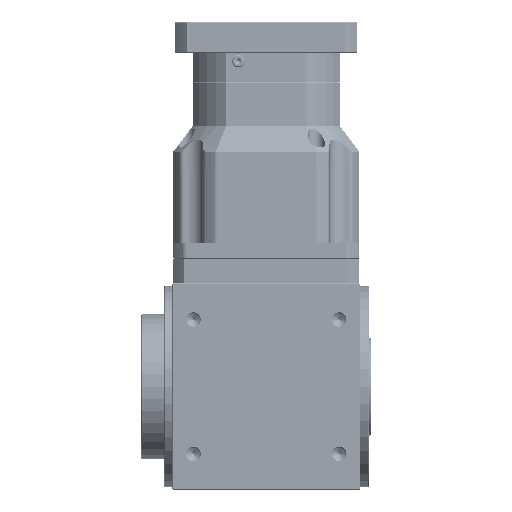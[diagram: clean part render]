
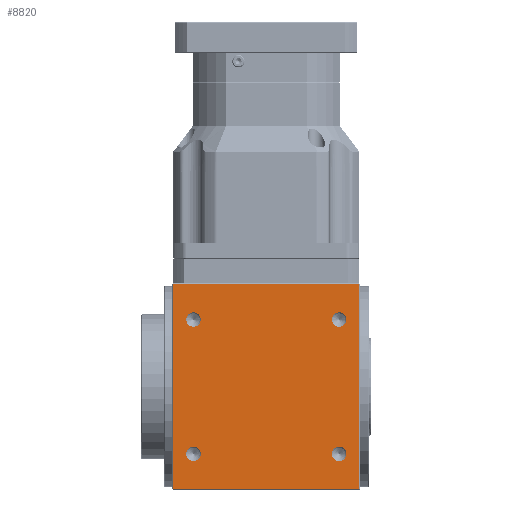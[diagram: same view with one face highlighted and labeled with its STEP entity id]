
A CAD part, front view. The second image highlights one B-rep face of the part: STEP entity #8820.
In plain terms, the highlighted planar face has unit normal (0, -1, 0) as drawn and (0, 0, -1) by its records, which use the part's own axes.
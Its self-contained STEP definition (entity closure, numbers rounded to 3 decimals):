
#449 = ORIENTED_EDGE ( 'NONE', *, *, #145930, .F. ) ;
#633 = EDGE_LOOP ( 'NONE', ( #129482, #45025 ) ) ;
#788 = CIRCLE ( 'NONE', #96652, 7. ) ;
#1227 = ORIENTED_EDGE ( 'NONE', *, *, #120564, .T. ) ;
#1298 = CARTESIAN_POINT ( 'NONE',  ( 91., -99., -100. ) ) ;
#5831 = DIRECTION ( 'NONE',  ( 0., 0., -1. ) ) ;
#7052 = DIRECTION ( 'NONE',  ( 0., -1., 0. ) ) ;
#8820 = ADVANCED_FACE ( 'NONE', ( #111980, #81419, #142329, #50953, #138730 ), #131395, .F. ) ;
#10767 = DIRECTION ( 'NONE',  ( 0., 1., 0. ) ) ;
#10984 = VERTEX_POINT ( 'NONE', #11340 ) ;
#11340 = CARTESIAN_POINT ( 'NONE',  ( -77.5, -65., -100. ) ) ;
#11454 = CARTESIAN_POINT ( 'NONE',  ( 63.5, 65., -100. ) ) ;
#17701 = DIRECTION ( 'NONE',  ( 0., 0., -1. ) ) ;
#17892 = EDGE_CURVE ( 'NONE', #107421, #56135, #126602, .T. ) ;
#18652 = AXIS2_PLACEMENT_3D ( 'NONE', #28227, #108521, #39792 ) ;
#18968 = CARTESIAN_POINT ( 'NONE',  ( 91., 99., -100. ) ) ;
#19226 = ORIENTED_EDGE ( 'NONE', *, *, #31431, .F. ) ;
#19596 = CARTESIAN_POINT ( 'NONE',  ( 90., 99., -100. ) ) ;
#19893 = CIRCLE ( 'NONE', #83148, 7. ) ;
#22408 = DIRECTION ( 'NONE',  ( 0., 1., 0. ) ) ;
#22409 = CARTESIAN_POINT ( 'NONE',  ( -70.5, 65., -100. ) ) ;
#23015 = CIRCLE ( 'NONE', #127202, 7. ) ;
#27076 = CARTESIAN_POINT ( 'NONE',  ( -90., -99., -100. ) ) ;
#27694 = CARTESIAN_POINT ( 'NONE',  ( 90., -99., -100. ) ) ;
#28227 = CARTESIAN_POINT ( 'NONE',  ( 70.5, 65., -100. ) ) ;
#28817 = DIRECTION ( 'NONE',  ( 0., 0., -1. ) ) ;
#31431 = EDGE_CURVE ( 'NONE', #55599, #42506, #788, .T. ) ;
#32496 = ORIENTED_EDGE ( 'NONE', *, *, #51628, .F. ) ;
#33661 = CARTESIAN_POINT ( 'NONE',  ( -77.5, 65., -100. ) ) ;
#33963 = DIRECTION ( 'NONE',  ( -1., 0., 0. ) ) ;
#34135 = AXIS2_PLACEMENT_3D ( 'NONE', #125669, #57047, #137137 ) ;
#34347 = EDGE_LOOP ( 'NONE', ( #130482, #61517 ) ) ;
#36065 = EDGE_LOOP ( 'NONE', ( #449, #147823 ) ) ;
#38575 = LINE ( 'NONE', #18968, #96011 ) ;
#39315 = ORIENTED_EDGE ( 'NONE', *, *, #51652, .F. ) ;
#39792 = DIRECTION ( 'NONE',  ( -1., 0., 0. ) ) ;
#41116 = EDGE_CURVE ( 'NONE', #131014, #10984, #19893, .T. ) ;
#42506 = VERTEX_POINT ( 'NONE', #124232 ) ;
#43799 = VERTEX_POINT ( 'NONE', #44548 ) ;
#44548 = CARTESIAN_POINT ( 'NONE',  ( 77.5, 65., -100. ) ) ;
#45025 = ORIENTED_EDGE ( 'NONE', *, *, #17892, .F. ) ;
#45134 = DIRECTION ( 'NONE',  ( 0., 0., -1. ) ) ;
#46099 = CIRCLE ( 'NONE', #18652, 7. ) ;
#46256 = CARTESIAN_POINT ( 'NONE',  ( -90., 99., -100. ) ) ;
#46859 = CIRCLE ( 'NONE', #47676, 7. ) ;
#47676 = AXIS2_PLACEMENT_3D ( 'NONE', #22409, #102663, #33963 ) ;
#49413 = CIRCLE ( 'NONE', #119043, 7. ) ;
#49776 = LINE ( 'NONE', #137113, #137563 ) ;
#50362 = CARTESIAN_POINT ( 'NONE',  ( -63.5, -65., -100. ) ) ;
#50533 = DIRECTION ( 'NONE',  ( 0., 1., 0. ) ) ;
#50953 = FACE_BOUND ( 'NONE', #633, .T. ) ;
#51441 = CIRCLE ( 'NONE', #34135, 7. ) ;
#51628 = EDGE_CURVE ( 'NONE', #52522, #80252, #85914, .T. ) ;
#51652 = EDGE_CURVE ( 'NONE', #80252, #134047, #128865, .T. ) ;
#52115 = EDGE_CURVE ( 'NONE', #115931, #43799, #23015, .T. ) ;
#52522 = VERTEX_POINT ( 'NONE', #27076 ) ;
#55599 = VERTEX_POINT ( 'NONE', #135050 ) ;
#56135 = VERTEX_POINT ( 'NONE', #33661 ) ;
#57047 = DIRECTION ( 'NONE',  ( 0., 0., -1. ) ) ;
#58779 = EDGE_CURVE ( 'NONE', #42506, #55599, #49413, .T. ) ;
#58936 = AXIS2_PLACEMENT_3D ( 'NONE', #113884, #45134, #125340 ) ;
#61517 = ORIENTED_EDGE ( 'NONE', *, *, #76712, .F. ) ;
#67952 = EDGE_CURVE ( 'NONE', #56135, #107421, #46859, .T. ) ;
#72295 = CARTESIAN_POINT ( 'NONE',  ( -63.5, 65., -100. ) ) ;
#74566 = CARTESIAN_POINT ( 'NONE',  ( -70.5, -65., -100. ) ) ;
#75771 = DIRECTION ( 'NONE',  ( 0., 0., 1. ) ) ;
#76712 = EDGE_CURVE ( 'NONE', #43799, #115931, #46099, .T. ) ;
#79470 = DIRECTION ( 'NONE',  ( 0., 0., -1. ) ) ;
#80252 = VERTEX_POINT ( 'NONE', #27694 ) ;
#81419 = FACE_BOUND ( 'NONE', #112863, .T. ) ;
#82580 = CARTESIAN_POINT ( 'NONE',  ( 90., 0., -100. ) ) ;
#83148 = AXIS2_PLACEMENT_3D ( 'NONE', #74566, #5831, #86146 ) ;
#84070 = ORIENTED_EDGE ( 'NONE', *, *, #132572, .T. ) ;
#85914 = LINE ( 'NONE', #1298, #112819 ) ;
#86146 = DIRECTION ( 'NONE',  ( -1., 0., 0. ) ) ;
#86457 = CARTESIAN_POINT ( 'NONE',  ( 70.5, 65., -100. ) ) ;
#93820 = AXIS2_PLACEMENT_3D ( 'NONE', #144359, #75771, #7052 ) ;
#96011 = VECTOR ( 'NONE', #133231, 1000. ) ;
#96652 = AXIS2_PLACEMENT_3D ( 'NONE', #97571, #28817, #109107 ) ;
#97571 = CARTESIAN_POINT ( 'NONE',  ( 70.5, -65., -100. ) ) ;
#98016 = DIRECTION ( 'NONE',  ( -1., 0., 0. ) ) ;
#99706 = ORIENTED_EDGE ( 'NONE', *, *, #58779, .F. ) ;
#102663 = DIRECTION ( 'NONE',  ( 0., 0., -1. ) ) ;
#104673 = DIRECTION ( 'NONE',  ( 1., 0., 0. ) ) ;
#107421 = VERTEX_POINT ( 'NONE', #72295 ) ;
#108521 = DIRECTION ( 'NONE',  ( 0., 0., -1. ) ) ;
#109107 = DIRECTION ( 'NONE',  ( 0., 1., 0. ) ) ;
#111980 = FACE_OUTER_BOUND ( 'NONE', #123918, .T. ) ;
#112819 = VECTOR ( 'NONE', #104673, 1000. ) ;
#112863 = EDGE_LOOP ( 'NONE', ( #99706, #19226 ) ) ;
#113884 = CARTESIAN_POINT ( 'NONE',  ( -70.5, 65., -100. ) ) ;
#115931 = VERTEX_POINT ( 'NONE', #11454 ) ;
#119043 = AXIS2_PLACEMENT_3D ( 'NONE', #148050, #79470, #10767 ) ;
#120564 = EDGE_CURVE ( 'NONE', #52522, #125180, #49776, .T. ) ;
#123918 = EDGE_LOOP ( 'NONE', ( #32496, #1227, #84070, #39315 ) ) ;
#124232 = CARTESIAN_POINT ( 'NONE',  ( 70.5, -58., -100. ) ) ;
#125180 = VERTEX_POINT ( 'NONE', #46256 ) ;
#125340 = DIRECTION ( 'NONE',  ( -1., 0., 0. ) ) ;
#125669 = CARTESIAN_POINT ( 'NONE',  ( -70.5, -65., -100. ) ) ;
#126602 = CIRCLE ( 'NONE', #58936, 7. ) ;
#127202 = AXIS2_PLACEMENT_3D ( 'NONE', #86457, #17701, #98016 ) ;
#128865 = LINE ( 'NONE', #82580, #132467 ) ;
#129482 = ORIENTED_EDGE ( 'NONE', *, *, #67952, .F. ) ;
#130482 = ORIENTED_EDGE ( 'NONE', *, *, #52115, .F. ) ;
#131014 = VERTEX_POINT ( 'NONE', #50362 ) ;
#131395 = PLANE ( 'NONE',  #93820 ) ;
#132467 = VECTOR ( 'NONE', #50533, 1000. ) ;
#132572 = EDGE_CURVE ( 'NONE', #125180, #134047, #38575, .T. ) ;
#133231 = DIRECTION ( 'NONE',  ( 1., 0., 0. ) ) ;
#134047 = VERTEX_POINT ( 'NONE', #19596 ) ;
#135050 = CARTESIAN_POINT ( 'NONE',  ( 70.5, -72., -100. ) ) ;
#137113 = CARTESIAN_POINT ( 'NONE',  ( -90., 100., -100. ) ) ;
#137137 = DIRECTION ( 'NONE',  ( -1., 0., 0. ) ) ;
#137563 = VECTOR ( 'NONE', #22408, 1000. ) ;
#138730 = FACE_BOUND ( 'NONE', #36065, .T. ) ;
#142329 = FACE_BOUND ( 'NONE', #34347, .T. ) ;
#144359 = CARTESIAN_POINT ( 'NONE',  ( 91., 100., -100. ) ) ;
#145930 = EDGE_CURVE ( 'NONE', #10984, #131014, #51441, .T. ) ;
#147823 = ORIENTED_EDGE ( 'NONE', *, *, #41116, .F. ) ;
#148050 = CARTESIAN_POINT ( 'NONE',  ( 70.5, -65., -100. ) ) ;
